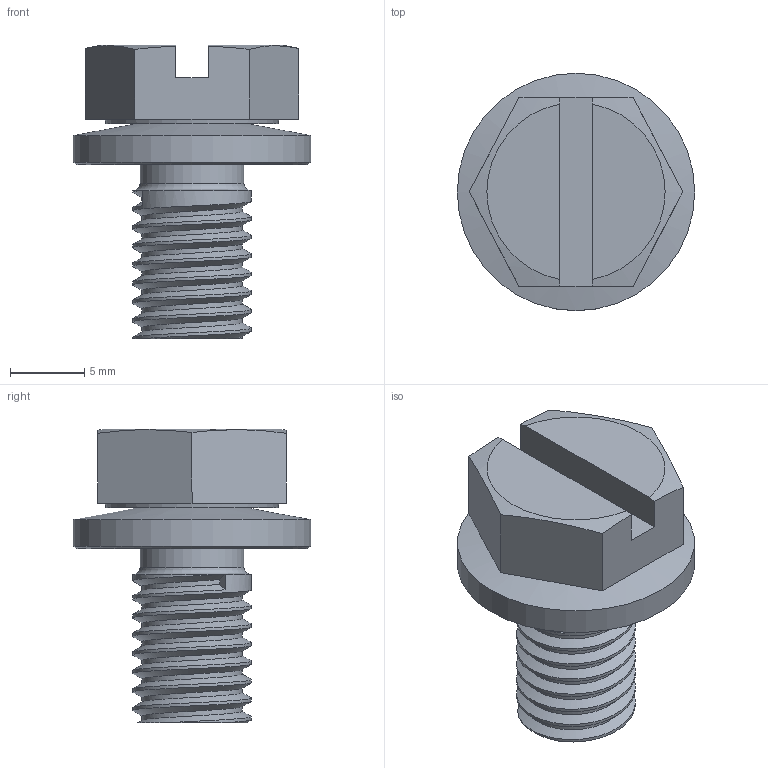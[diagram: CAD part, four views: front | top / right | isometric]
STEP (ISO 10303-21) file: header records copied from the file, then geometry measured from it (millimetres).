
FILE_DESCRIPTION(/* description */ (''),/* implementation_level */ '2;1');
FILE_NAME(/* name */ '00SZS',/* time_stamp */ '2014-06-16T11:20:01+02:00',/* author */ (''),/* organization */ (''),/* preprocessor_version */ 'ST-DEVELOPER v9',/* originating_system */ 'UGS - NX 4.0',/* authorisation */ '');
FILE_SCHEMA (('CONFIG_CONTROL_DESIGN'));
Length unit declared in the file: millimetre
Products named in the file (1): MTroCFD28xzz
Bounding box: 16 x 16 x 19.8 mm (x, y, z)
Volume: 1572.9 mm3; surface area: 1470.8 mm2
Topology: 2 solids, 2 shells, 29 faces, 71 edges, 46 vertices
Faces by surface type: plane 15, cylinder 5, bspline 4, cone 4, torus 1
Full cylindrical faces by diameter (mm): 7 x1, 7.4 x1, 16 x1
Entity records: 2905 total; most frequent: CARTESIAN_POINT 2225, ORIENTED_EDGE 120, DIRECTION 106, EDGE_CURVE 60, VERTEX_POINT 43, AXIS2_PLACEMENT_3D 41, EDGE_LOOP 39, ADVANCED_FACE 29
